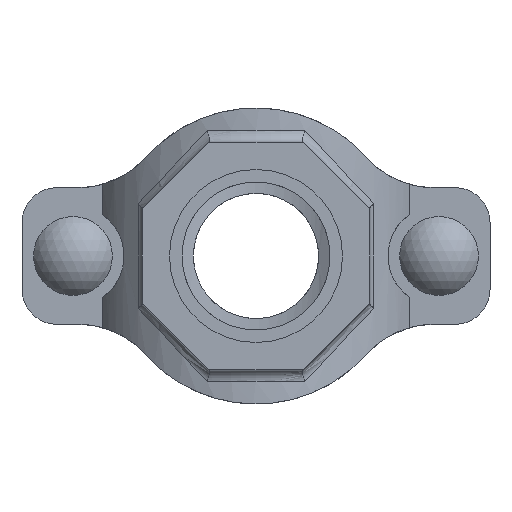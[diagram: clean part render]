
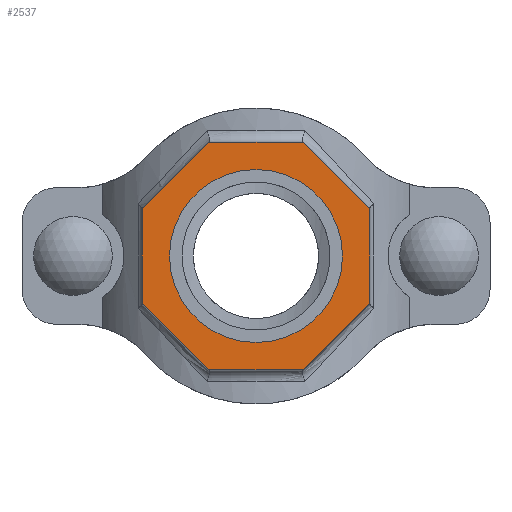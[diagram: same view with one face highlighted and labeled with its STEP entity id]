
A CAD part, front view. The second image highlights one B-rep face of the part: STEP entity #2537.
In plain terms, the highlighted planar face has unit normal (0, -1, 0) as drawn and (0, 1, 0) by its records, which use the part's own axes.
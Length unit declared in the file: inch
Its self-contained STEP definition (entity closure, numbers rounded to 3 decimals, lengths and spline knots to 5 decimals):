
#186=FACE_BOUND('',#457,.T.);
#305=FACE_OUTER_BOUND('',#456,.T.);
#456=EDGE_LOOP('',(#2126,#2127,#2128,#2129,#2130,#2131,#2132,#2133));
#457=EDGE_LOOP('',(#2134));
#594=LINE('',#4741,#780);
#597=LINE('',#4746,#783);
#599=LINE('',#4750,#785);
#601=LINE('',#4754,#787);
#637=LINE('',#5175,#823);
#639=LINE('',#5179,#825);
#641=LINE('',#5183,#827);
#643=LINE('',#5186,#829);
#780=VECTOR('',#3284,0.3937);
#783=VECTOR('',#3289,0.3937);
#785=VECTOR('',#3293,0.3937);
#787=VECTOR('',#3297,0.3937);
#823=VECTOR('',#3421,0.3937);
#825=VECTOR('',#3425,0.3937);
#827=VECTOR('',#3429,0.3937);
#829=VECTOR('',#3433,0.3937);
#915=CIRCLE('',#2800,0.95);
#1097=VERTEX_POINT('',#4738);
#1098=VERTEX_POINT('',#4740);
#1099=VERTEX_POINT('',#4744);
#1100=VERTEX_POINT('',#4748);
#1101=VERTEX_POINT('',#4752);
#1132=VERTEX_POINT('',#5016);
#1156=VERTEX_POINT('',#5174);
#1157=VERTEX_POINT('',#5178);
#1158=VERTEX_POINT('',#5182);
#1408=EDGE_CURVE('',#1098,#1097,#594,.T.);
#1411=EDGE_CURVE('',#1097,#1099,#597,.T.);
#1413=EDGE_CURVE('',#1099,#1100,#599,.T.);
#1415=EDGE_CURVE('',#1100,#1101,#601,.T.);
#1457=EDGE_CURVE('',#1132,#1132,#915,.T.);
#1489=EDGE_CURVE('',#1156,#1098,#637,.T.);
#1491=EDGE_CURVE('',#1157,#1156,#639,.T.);
#1493=EDGE_CURVE('',#1158,#1157,#641,.T.);
#1495=EDGE_CURVE('',#1101,#1158,#643,.T.);
#2126=ORIENTED_EDGE('',*,*,#1495,.T.);
#2127=ORIENTED_EDGE('',*,*,#1493,.T.);
#2128=ORIENTED_EDGE('',*,*,#1491,.T.);
#2129=ORIENTED_EDGE('',*,*,#1489,.T.);
#2130=ORIENTED_EDGE('',*,*,#1408,.T.);
#2131=ORIENTED_EDGE('',*,*,#1411,.T.);
#2132=ORIENTED_EDGE('',*,*,#1413,.T.);
#2133=ORIENTED_EDGE('',*,*,#1415,.T.);
#2134=ORIENTED_EDGE('',*,*,#1457,.T.);
#2278=PLANE('',#2823);
#2537=ADVANCED_FACE('',(#305,#186),#2278,.T.);
#2800=AXIS2_PLACEMENT_3D('',#5017,#3367,#3368);
#2823=AXIS2_PLACEMENT_3D('',#5187,#3434,#3435);
#3284=DIRECTION('',(0.,0.,1.));
#3289=DIRECTION('',(0.707,0.,0.707));
#3293=DIRECTION('',(1.,0.,0.));
#3297=DIRECTION('',(0.707,0.,-0.707));
#3367=DIRECTION('center_axis',(0.,-1.,0.));
#3368=DIRECTION('ref_axis',(-1.,0.,0.));
#3421=DIRECTION('',(-0.707,0.,0.707));
#3425=DIRECTION('',(-1.,0.,0.));
#3429=DIRECTION('',(-0.707,0.,-0.707));
#3433=DIRECTION('',(0.,0.,-1.));
#3434=DIRECTION('center_axis',(0.,1.,0.));
#3435=DIRECTION('ref_axis',(0.,0.,1.));
#4738=CARTESIAN_POINT('',(-1.25,3.,0.51777));
#4740=CARTESIAN_POINT('',(-1.25,3.,-0.51777));
#4741=CARTESIAN_POINT('',(-1.25,3.,0.51777));
#4744=CARTESIAN_POINT('',(-0.51777,3.,1.25));
#4746=CARTESIAN_POINT('',(-0.51777,3.,1.25));
#4748=CARTESIAN_POINT('',(0.51777,3.,1.25));
#4750=CARTESIAN_POINT('',(0.51777,3.,1.25));
#4752=CARTESIAN_POINT('',(1.25,3.,0.51777));
#4754=CARTESIAN_POINT('',(1.25,3.,0.51777));
#5016=CARTESIAN_POINT('',(0.95,3.,0.));
#5017=CARTESIAN_POINT('Origin',(0.,3.,0.));
#5174=CARTESIAN_POINT('',(-0.51777,3.,-1.25));
#5175=CARTESIAN_POINT('',(-1.25,3.,-0.51777));
#5178=CARTESIAN_POINT('',(0.51777,3.,-1.25));
#5179=CARTESIAN_POINT('',(-0.51777,3.,-1.25));
#5182=CARTESIAN_POINT('',(1.25,3.,-0.51777));
#5183=CARTESIAN_POINT('',(0.51777,3.,-1.25));
#5186=CARTESIAN_POINT('',(1.25,3.,-0.51777));
#5187=CARTESIAN_POINT('Origin',(0.,3.,0.));
